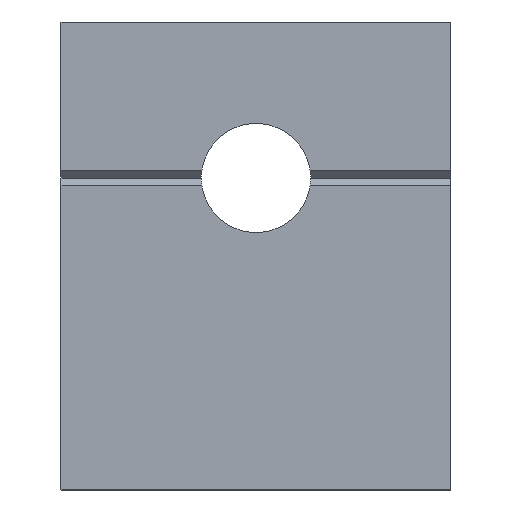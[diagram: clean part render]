
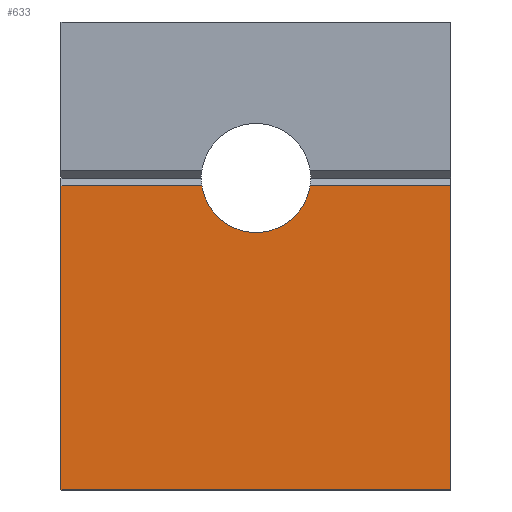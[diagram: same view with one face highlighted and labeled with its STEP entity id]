
A CAD part, left-side view. The second image highlights one B-rep face of the part: STEP entity #633.
In plain terms, the highlighted planar face has unit normal (-1, 0, 0).
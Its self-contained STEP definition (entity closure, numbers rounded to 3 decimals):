
#51=CIRCLE('',#697,3.5);
#164=ORIENTED_EDGE('',*,*,#321,.F.);
#165=ORIENTED_EDGE('',*,*,#286,.F.);
#166=ORIENTED_EDGE('',*,*,#292,.F.);
#167=ORIENTED_EDGE('',*,*,#303,.F.);
#168=ORIENTED_EDGE('',*,*,#317,.T.);
#169=ORIENTED_EDGE('',*,*,#322,.F.);
#286=EDGE_CURVE('',#375,#376,#430,.T.);
#292=EDGE_CURVE('',#380,#375,#435,.T.);
#303=EDGE_CURVE('',#385,#380,#443,.T.);
#317=EDGE_CURVE('',#385,#390,#454,.T.);
#321=EDGE_CURVE('',#376,#392,#51,.T.);
#322=EDGE_CURVE('',#392,#390,#457,.T.);
#375=VERTEX_POINT('',#1010);
#376=VERTEX_POINT('',#1011);
#380=VERTEX_POINT('',#1021);
#385=VERTEX_POINT('',#1038);
#390=VERTEX_POINT('',#1059);
#392=VERTEX_POINT('',#1068);
#430=LINE('',#1009,#495);
#435=LINE('',#1022,#500);
#443=LINE('',#1039,#508);
#454=LINE('',#1060,#519);
#457=LINE('',#1069,#522);
#495=VECTOR('',#804,1000.);
#500=VECTOR('',#813,1000.);
#508=VECTOR('',#829,1000.);
#519=VECTOR('',#850,1000.);
#522=VECTOR('',#861,1000.);
#540=EDGE_LOOP('',(#164,#165,#166,#167,#168,#169));
#573=FACE_BOUND('',#540,.T.);
#606=PLANE('',#696);
#633=ADVANCED_FACE('',(#573),#606,.T.);
#696=AXIS2_PLACEMENT_3D('',#1066,#857,#858);
#697=AXIS2_PLACEMENT_3D('',#1067,#859,#860);
#804=DIRECTION('',(0.,-1.,0.));
#813=DIRECTION('',(0.,0.,1.));
#829=DIRECTION('',(0.,1.,0.));
#850=DIRECTION('',(0.,0.,1.));
#857=DIRECTION('',(-1.,0.,0.));
#858=DIRECTION('',(0.,0.,1.));
#859=DIRECTION('',(-1.,0.,0.));
#860=DIRECTION('',(0.,0.,1.));
#861=DIRECTION('',(0.,-1.,0.));
#1009=CARTESIAN_POINT('',(0.,-12.5,19.5));
#1010=CARTESIAN_POINT('',(0.,12.5,19.5));
#1011=CARTESIAN_POINT('',(0.,3.464,19.5));
#1021=CARTESIAN_POINT('',(0.,12.5,0.));
#1022=CARTESIAN_POINT('',(0.,12.5,0.));
#1038=CARTESIAN_POINT('',(0.,-12.5,0.));
#1039=CARTESIAN_POINT('',(0.,-12.5,0.));
#1059=CARTESIAN_POINT('',(0.,-12.5,19.5));
#1060=CARTESIAN_POINT('',(0.,-12.5,0.));
#1066=CARTESIAN_POINT('',(0.,-12.5,0.));
#1067=CARTESIAN_POINT('',(0.,0.,20.));
#1068=CARTESIAN_POINT('',(0.,-3.464,19.5));
#1069=CARTESIAN_POINT('',(0.,-12.5,19.5));
